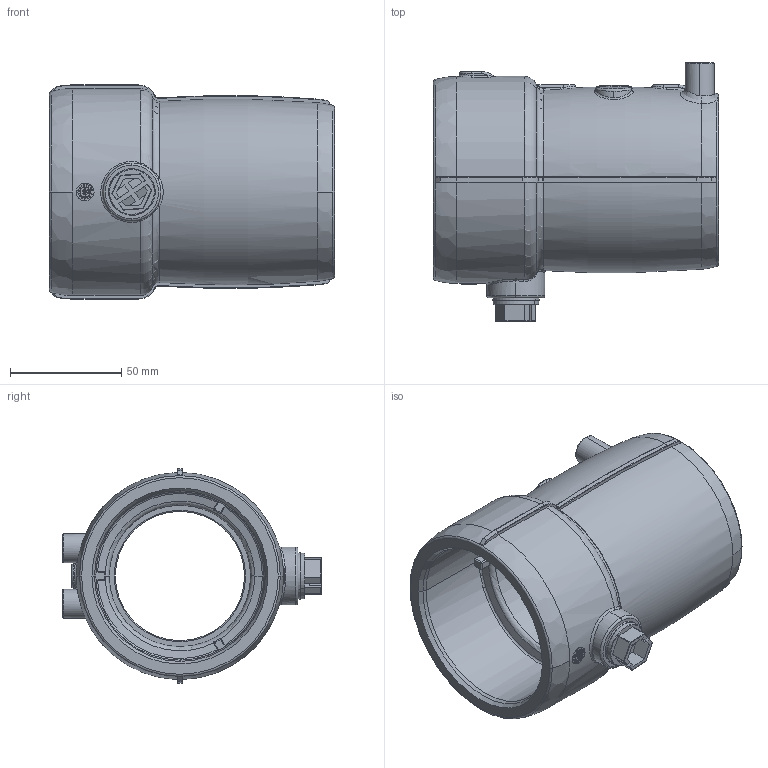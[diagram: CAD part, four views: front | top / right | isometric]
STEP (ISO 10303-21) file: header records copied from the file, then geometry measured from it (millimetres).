
FILE_DESCRIPTION (( 'STEP AP203' ), '1' );
FILE_NAME ('KP_T75-63SC04-L.STEP', '2012-01-18T10:45:50', ( '' ), ( '' ), 'SwSTEP 2.0', 'SolidWorks 2012', '' );
FILE_SCHEMA (( 'CONFIG_CONTROL_DESIGN' ));
Length unit declared in the file: millimetre
Products named in the file (1): KP_T75-63SC04-L
Bounding box: 128 x 116.13 x 96.2 mm (x, y, z)
Volume: 299291.9 mm3; surface area: 72922.4 mm2
Topology: 1 solids, 6 shells, 909 faces, 2316 edges, 1477 vertices
Faces by surface type: plane 353, bspline 248, cylinder 169, torus 76, cone 47, sphere 16
Entity records: 41158 total; most frequent: CARTESIAN_POINT 21708, ORIENTED_EDGE 4604, DIRECTION 3218, EDGE_CURVE 2302, VERTEX_POINT 1475, AXIS2_PLACEMENT_3D 1174, EDGE_LOOP 987, ADVANCED_FACE 909
